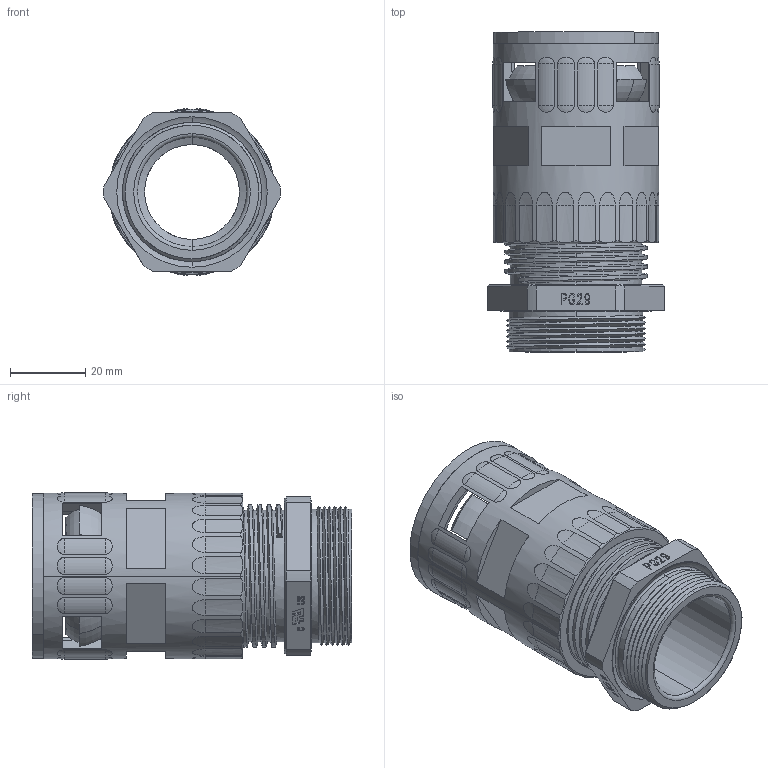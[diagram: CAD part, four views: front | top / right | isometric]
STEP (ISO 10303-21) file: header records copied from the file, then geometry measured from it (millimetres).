
FILE_DESCRIPTION (( 'STEP AP203' ), '1' );
FILE_NAME ('WQGZ-P29-AD34.5.STEP', '2020-03-11T06:38:29', ( '' ), ( '' ), 'SwSTEP 2.0', 'SolidWorks 2016', '' );
FILE_SCHEMA (( 'CONFIG_CONTROL_DESIGN' ));
Length unit declared in the file: millimetre
Products named in the file (8): CTH-P29; WQGZ-P29-AD34.5; WQG2-Tr38-AD34.5-01; GFD-AD34.5; NSK-AD34.5; WQG2-Tr38-AD34.5; 蚾饜极9; HSK-P29-01
Assembly tree (7 placements, depth 3):
  WQGZ-P29-AD34.5
    WQG2-Tr38-AD34.5
      WQG2-Tr38-AD34.5-01
      GFD-AD34.5
      NSK-AD34.5
    蚾饜极9
      HSK-P29-01
      CTH-P29
Bounding box: 46.99 x 85 x 44.18 mm (x, y, z)
Volume: 50415.6 mm3; surface area: 42512.6 mm2
Topology: 5 solids, 5 shells, 805 faces, 2225 edges, 1418 vertices
Faces by surface type: plane 451, cylinder 127, cone 84, sphere 56, torus 54, bspline 33
Entity records: 31175 total; most frequent: CARTESIAN_POINT 10726, ORIENTED_EDGE 4226, DIRECTION 3908, EDGE_CURVE 2113, VERTEX_POINT 1362, AXIS2_PLACEMENT_3D 1321, LINE 1266, VECTOR 1266
